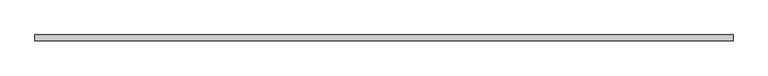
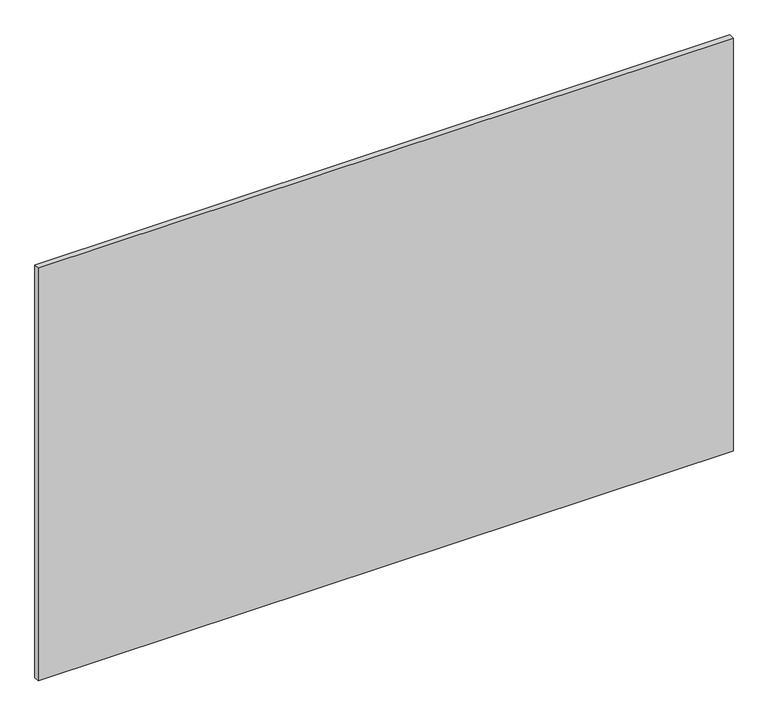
"""IFC4 building model written with IfcOpenShell, lengths in millimetres: plate geometry, Vitré."""

from ifc_helpers import new_model, si_unit, origin, origin_with_axes, place, context, project, spatial, polyline, outline, extrude, source, transform, mapped, element, save


def plate_5263d26b(model_context):
    return source(origin(), model_context, "Body", "SweptSolid", [
        extrude(outline(polyline([(-2450.0, -20.0), (-2450.0, 20.0), (2450.0, 20.0), (2450.0, -20.0), (-2450.0, -20.0)])), origin_with_axes(), (0.0, 0.0, 1.0), 3080.0),
    ])


if __name__ == "__main__":
    model = new_model("IFC4")
    model_context = context("Model", 3, world=origin())
    ifc_project = project(units=[si_unit("LENGTHUNIT", "METRE", prefix="MILLI")], contexts=[model_context])
    site = spatial("IfcSite", under=ifc_project)
    building = spatial("IfcBuilding", under=site)
    placement = place(None, origin())
    plate_shape = plate_5263d26b(model_context)
    element("IfcPlate", 1, ObjectType="Vitré", at=placement, inside=building, context=model_context, shape_type="MappedRepresentation", body=[
        mapped(plate_shape, transform((0.0, 0.0, 0.0), x_axis=(1.0, 0.0, 0.0), y_axis=(0.0, 1.0, 0.0), z_axis=(0.0, 0.0, 1.0))),
    ])
    save(model, "model.ifc")
